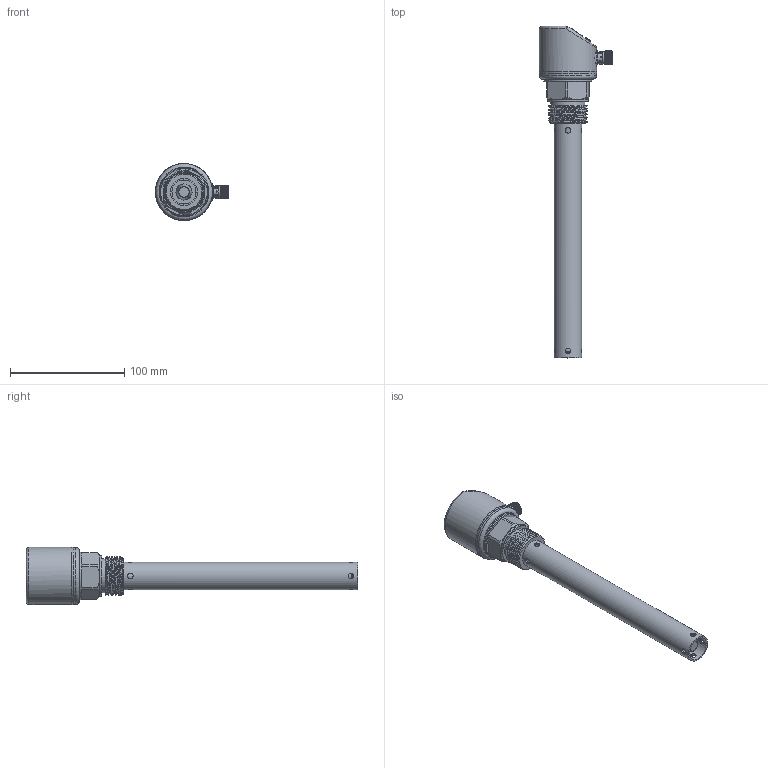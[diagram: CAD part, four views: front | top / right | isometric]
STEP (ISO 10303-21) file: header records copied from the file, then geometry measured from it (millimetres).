
FILE_DESCRIPTION (( 'STEP AP214' ), '1' );
FILE_NAME ('G1数显电容-200（同轴）.STEP', '2025-03-11T06:26:19', ( '' ), ( '' ), 'SwSTEP 2.0', 'SolidWorks 2020', '' );
FILE_SCHEMA (( 'AUTOMOTIVE_DESIGN' ));
Length unit declared in the file: millimetre
Products named in the file (9): 肮粣奪; 揤薯珆尨欶; G1数显电容-200（同轴）; G1̽ͷ; 揤薯奻裔; PVC躇猾菜; 抻芛ㄗ蟀哿講ㄘ; 偌瑩簽; 滅阨諉芛褲极1
Assembly tree (10 placements, depth 2):
  G1数显电容-200（同轴）
    揤薯奻裔
    揤薯珆尨欶
    滅阨諉芛褲极1
    偌瑩簽  x3
    PVC躇猾菜
    抻芛ㄗ蟀哿講ㄘ
    肮粣奪
    G1̽ͷ
Bounding box: 64 x 290.1 x 50 mm (x, y, z)
Volume: 86047.9 mm3; surface area: 69712.6 mm2
Topology: 10 solids, 10 shells, 321 faces, 759 edges, 491 vertices
Faces by surface type: plane 129, cylinder 118, cone 48, bspline 11, torus 11, sphere 4
Full cylindrical faces by diameter (mm): 1 x4, 1.2 x3, 1.8 x1, 2 x3, 2.5 x6, 2.8 x1, 4.3 x3, 4.5 x6, 5 x8, 6 x1, 7.2 x1, 8 x1, 8.5 x1, 9.75 x1, 10 x1, 10.49 x1, 10.5 x1, 10.8 x1, 10.9 x1, 11 x2, 12 x1, 21 x2, 24 x1, 30 x1, 35 x1, 35.5 x1, 42 x1, 43.9 x1, 45.4 x1, 45.6 x2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
Entity records: 13635 total; most frequent: CARTESIAN_POINT 6743, DIRECTION 1341, ORIENTED_EDGE 1134, EDGE_CURVE 567, AXIS2_PLACEMENT_3D 545, EDGE_LOOP 480, VERTEX_POINT 421, FACE_OUTER_BOUND 362
